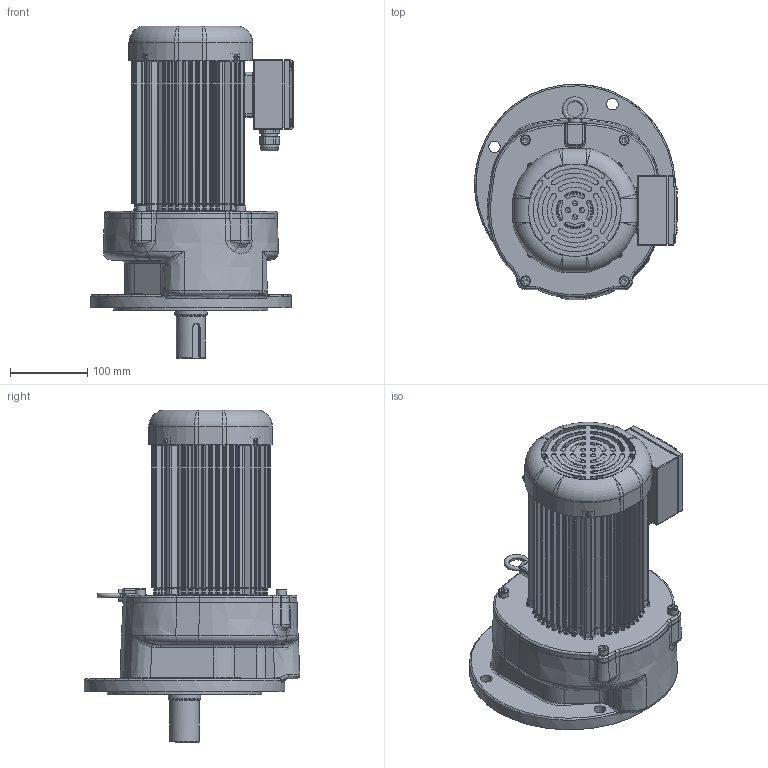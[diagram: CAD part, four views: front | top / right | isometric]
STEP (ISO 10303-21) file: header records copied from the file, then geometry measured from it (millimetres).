
FILE_DESCRIPTION(/* description */ (''),/* implementation_level */ '2;1');
FILE_NAME(/* name */ 'Z:\동력 3D 파일\PMK153-(40~200)-PA(B)075[ ]L_(3D).stp',/* time_stamp */ '2021-07-12T16:49:00+09:00',/* author */ ('jaebok'),/* organization */ (''),/* preprocessor_version */ 'ST-DEVELOPER v18.1',/* originating_system */ 'Autodesk Inventor 2022',/* authorisation */ '');
FILE_SCHEMA (('AUTOMOTIVE_DESIGN { 1 0 10303 214 3 1 1 }'));
Products named in the file (1): 부품43
Bounding box: 263 x 279.52 x 430.5 mm (x, y, z)
Volume: 3324655.5 mm3; surface area: 911244.8 mm2
Topology: 2 solids, 33 shells, 3748 faces, 9389 edges, 5560 vertices
Faces by surface type: plane 1035, bspline 1024, cylinder 963, torus 409, cone 191, sphere 126
Full cylindrical faces by diameter (mm): 2 x1, 3.25 x1, 3.5 x4, 3.6 x4, 4 x21, 5 x13, 6 x4, 6.8 x5, 7 x13, 8 x19, 9 x4, 10 x1, 12.5 x1, 13 x4, 15 x5, 16 x1, 18 x1, 20 x2, 20.6 x1, 21 x2, 23.6 x1, 25 x1, 28 x2, 30 x1, 35 x2, 36 x1, 38 x1, 39.6 x1, 40 x1, 40.15 x1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
Entity records: 149484 total; most frequent: CARTESIAN_POINT 62719, ORIENTED_EDGE 18290, DIRECTION 16005, EDGE_CURVE 9145, AXIS2_PLACEMENT_3D 6582, VERTEX_POINT 5560, EDGE_LOOP 3955, CIRCLE 3751
